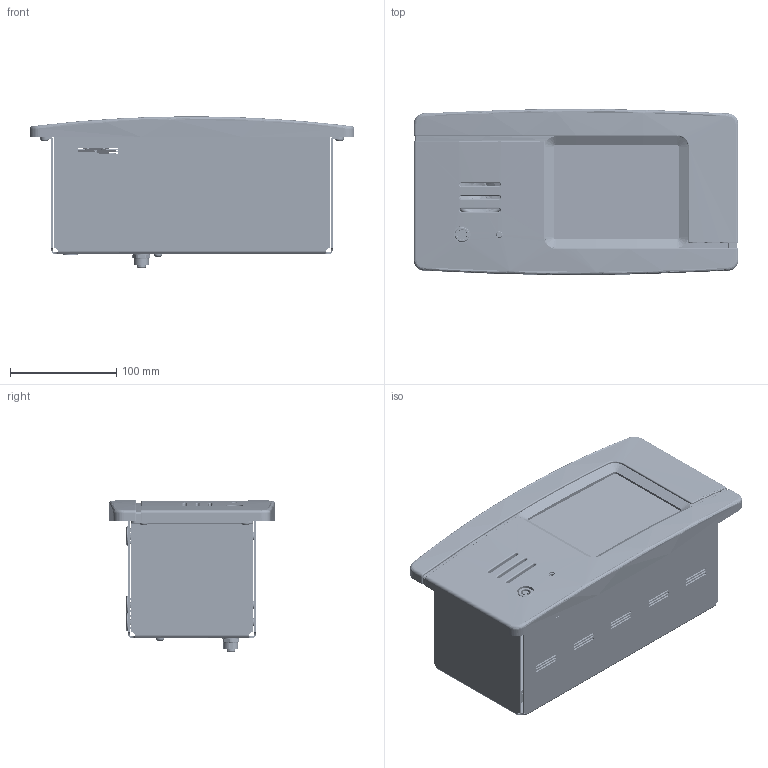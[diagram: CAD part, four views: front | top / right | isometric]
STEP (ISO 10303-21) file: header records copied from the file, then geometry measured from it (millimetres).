
FILE_DESCRIPTION (( 'STEP AP214' ), '1' );
FILE_NAME ('599-115 Sentrac Assembly.STEP', '2023-03-15T10:33:12', ( '' ), ( '' ), 'SwSTEP 2.0', 'SolidWorks 2022', '' );
FILE_SCHEMA (( 'AUTOMOTIVE_DESIGN' ));
Length unit declared in the file: millimetre
Products named in the file (171): C0603_IPC_B_1.6x0.8x0.90mm_CMP-001-00231-16; VISH-DO-214AC-2_N_CMP-004-00051-2; HCBSO M4x14 Pressdistans blind s400; C1210_IPC_B_3.2x2.5x2.00mm_CMP-001-00357-3; 79528211_CMP-00029-00002-4; 645002114822_CMP-00024-00006-2; WE-CBF_1812_High_Current_CMP-006-00028-3; EGG 1B Kontaktstift; 61300411121_CMP-002-00323-4; 598-216 Mounting chassis; MOLEX_053398-0571_CMP-002-00078-3; 592-166 Light Guide Hose; WE-TVSP_DO-214AC_Unidirectional_CMP-004-00039-2; R2512_IPC_B_6.35x3.2x0.65mm_CMP-009-00231-2; 12-MSOP_4.0x4.9mm_CMP-019-00063-3; WCAP-ASLL_12.5x14_CMP-001-00331-2; C0402_IPC_B_1.0x0.5x0.50MM_CMP-001-00347-1; NXP-SOT23_M_CMP-004-00014-8; R1206_IPC_B_3.1x1.6x0.65mm_CMP-009-00216-4; 598-193 Light Guide_Prodelox; 138-M4 Gänginsats Trisert 136; TI-PWP28-5720X1950TP_N_CMP-031-00013-2; 591-260 Sextandshålskruv M4x8; WL-SFCD_1210_CMP-007-00044-2; 687340124422_CMP-002-00642-6; R0402_IPC_B_1.0X0.5X0.40MM_CMP-009-00236-1; R0402_IPC_B_1.0X0.5X0.40MM_CMP-009-00225-3; WE-PDA_1260_CMP-006-00048-2; 598-216 Sentrac Panel Mounting Chassis; C1206_IPC_B_3.2x1.6x1.70mm_CMP-001-00330-1; 13-QFN_(2,5mm_x_3mm)_CMP-019-00064-4; WE-TVSP_DO-214AC_Unidirectional_CMP-004-00047-2; C0603_IPC_B_1.6x0.8x0.90mm_CMP-001-00300-7; 592-129 LCD Color display; R0603_IPC_B_1.55x0.8x0.55mm_CMP-009-00206-3; C0402_IPC_B_1.0x0.5x0.60MM_CMP-001-00323-2; I0805_IPC_B_2x1.25x1.00mm_CMP-006-00027-4; 592-064 Jordningsetikett; 691305130002_CMP-002-00463-2; R1206_IPC_B_3.1x1.6x0.65mm_CMP-009-00209-4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
Assembly tree (601 placements, depth 3):
  599-115 Sentrac Assembly
    598-304 Sentrac Front Panel_För högtalare FRS 7W och 3FE22
      598-304 Sentrac Front panel_Förslag 5
      138-M4 Gänginsats Trisert 136  x16
    598-216 Mounting chassis
      598-216 Sentrac Panel Mounting Chassis
      HCBSO M4x14 Pressdistans blind s400  x4
      HCN M4-2 stål pressmutter
    592-130 Sentrac HW2 Main PCB A7
      Bumblebee_Main_PCB_BOARD
      C0402_IPC_B_1.0x0.5x0.60MM_CMP-001-00309-4  x16
      PowerPAK®_SO-8_8x8mm_Dual_CMP-013-00041-1  x2
      WE-TVSP_DO-214AC_Unidirectional_CMP-004-00047-2  x27
      C1206_IPC_B_3.2x1.6x1.90mm_CMP-001-00325-1  x8
      I0603_IPC_B_1.6x0.8x0.95mm_CMP-006-00022-7  x25
      C1206_IPC_B_3.2x1.6x1.90mm_CMP-001-00296-8  x11
      R0402_IPC_B_1.0X0.5X0.50MM_CMP-009-00191-4  x17
      TE_2129691-1_CMP-002-00646-3
      R0402_IPC_B_1.0X0.5X0.50MM_CMP-009-00178-8  x34
      693072010801_CMP-002-00471-1
      PW0028A_M_CMP-031-00010-5
      R0402_IPC_B_1.0X0.5X0.50MM_CMP-009-00196-4  x19
      VISH-LLP3313-17L_V_CMP-00008-1  x6
      FP-ASE-xx.yyyMHZ-LC-T-MFG_CMP-003-00032-1
      R0402_IPC_B_1.0X0.5X0.50MM_CMP-009-00179-11  x13
      C0603_IPC_B_1.6x0.8x0.90mm_CMP-001-00231-16  x13
      61300211121_CMP-002-00319-5  x3
      C0805_IPC_B_2x1.25x1.25mm_CMP-001-00314-2  x4
      NXP-SOT457-6_V_CMP-013-00036-2  x2
      61300411121_CMP-002-00323-4
      79528211_CMP-00029-00002-4
      LT-DD-10_V_CMP-015-00011-3
      XTAL_KA-A3_EPS_CMP-003-00031-2
      WE-XTAL_CFPX-180_CMP-003-00030-2
      C0603_IPC_B_1.6x0.8x1.00mm_CMP-001-00237-9  x9
      12-MSOP_4.0x4.9mm_CMP-019-00063-3  x2
      R0402_IPC_B_1.0X0.5X0.40MM_CMP-009-00236-1  x4
      MCHP-SOT23-5_M_CMP-016-00012-3
      R0402_IPC_B_1.0X0.5X0.50MM_CMP-009-00183-8  x15
      NXP-SOT23_M_CMP-004-00014-8  x7
      WE-TVSP_DO-214AC_Unidirectional_CMP-004-00039-2  x15
      691322310024_CMP-002-00460-1
      TSSOP-ST14_L_CMP-014-00004-4  x2
      STM-PowerSO20_M_CMP-00024-00007-5  x4
      R0402_IPC_B_1.0X0.5X0.40MM_CMP-009-00227-2  x5
      I0805_IPC_B_2x1.25x1.00mm_CMP-006-00027-3  x7
      D0008A_M_CMP-016-00011-5
      13-QFN_(2,5mm_x_3mm)_CMP-019-00064-4  x2
      R0402_IPC_B_1.0X0.5X0.40MM_CMP-009-00212-4  x12
      C1210_IPC_B_3.2x2.5x2.80mm_CMP-001-00341-1  x8
      C1210_IPC_B_3.2x2.5x2.00mm_CMP-001-00357-2  x6
      SACC-DSIV-FS-8CON-L90_SH_SCO_CMP-002-00461-4
      TECO-640456-3_CMP-002-00644-1
      C0603_IPC_B_1.6x0.8x0.80mm_CMP-001-00317-3  x2
      R1206_IPC_B_3.1x1.6x0.65mm_CMP-009-00177-6  x4
      C0603_IPC_B_1.6x0.8x0.90mm_CMP-001-00300-7  x8
      R0603_IPC_B_1.55x0.8x0.55mm_CMP-009-00200-2
      ONSC-SOT-363-6-419B-02_V_CMP-013-00037-2  x2
      MOLEX_053398-0571_CMP-002-00078-3  x3
      WE-LHMD_1213_CMP-006-00029-1
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Bounding box: 305 x 155.86 x 142.1 mm (x, y, z)
Volume: 822262 mm3; surface area: 530376.1 mm2
Topology: 2148 solids, 2505 shells, 44977 faces, 111122 edges, 69646 vertices
Faces by surface type: plane 29439, cylinder 10482, sphere 2356, bspline 1995, cone 357, torus 348
Entity records: 719622 total; most frequent: CARTESIAN_POINT 167180, ORIENTED_EDGE 108678, DIRECTION 104004, EDGE_CURVE 54353, VECTOR 39296, LINE 39296, VERTEX_POINT 35163, AXIS2_PLACEMENT_3D 32354
